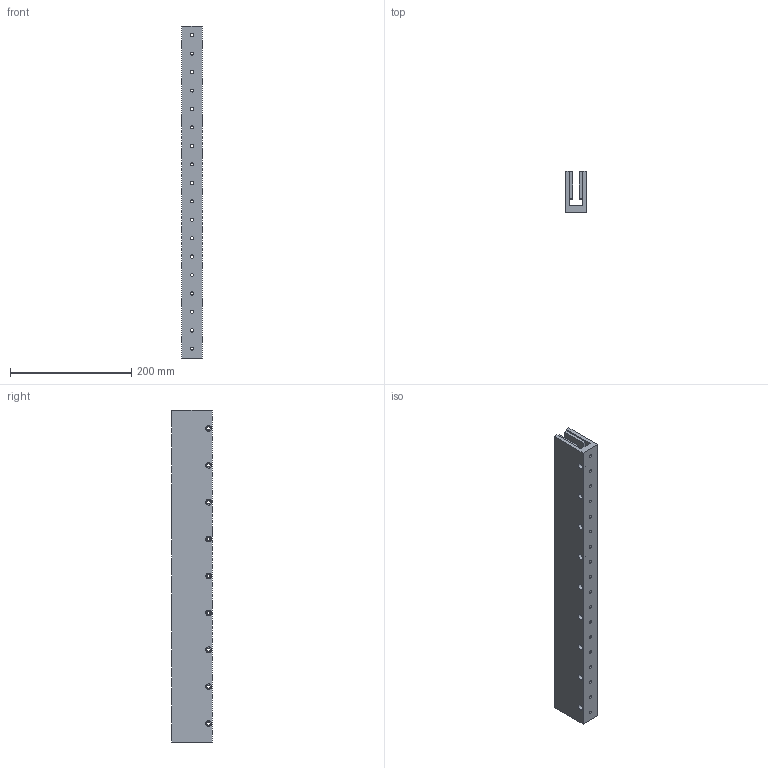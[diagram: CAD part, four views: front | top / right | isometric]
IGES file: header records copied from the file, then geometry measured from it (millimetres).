
Global section: file name: No Iges File Name specified; native system: Autodesk Inventor 2012; preprocessor: AutoDesk Inventor Iges Exporter R2012; author: je17857; date: 20120511.155309; units: inch
Bounding box: 34.29 x 67.31 x 548.39 mm (x, y, z)
Volume: 808438.9 mm3; surface area: 212274.6 mm2
Topology: 1 solids, 1 shells, 271 faces, 627 edges, 421 vertices
Faces by surface type: plane 217, revolution 54
